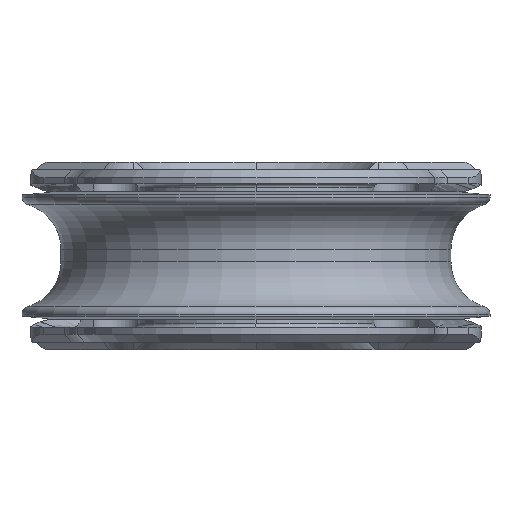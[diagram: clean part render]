
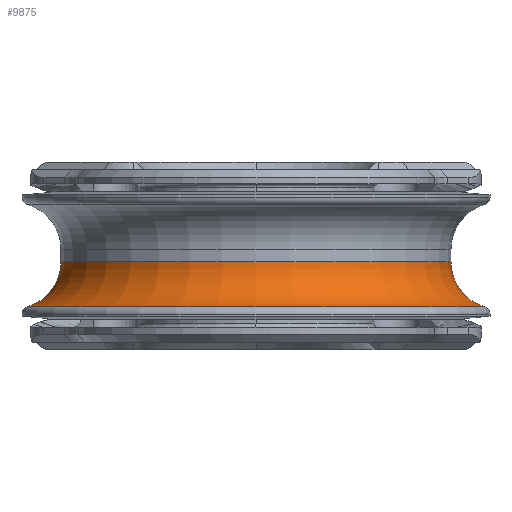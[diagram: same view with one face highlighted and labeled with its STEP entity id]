
A CAD part, front view. The second image highlights one B-rep face of the part: STEP entity #9875.
In plain terms, the highlighted toroidal (fillet/blend) face has major radius 31 mm and minor radius 6 mm.
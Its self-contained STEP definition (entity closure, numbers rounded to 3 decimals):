
#9129=CARTESIAN_POINT('',(-0.8,31.,0.));
#9130=DIRECTION('',(0.,0.,-1.));
#9131=DIRECTION('',(0.,-1.,0.));
#9132=AXIS2_PLACEMENT_3D('',#9129,#9130,#9131);
#9134=CARTESIAN_POINT('',(-0.8,-31.,0.));
#9135=DIRECTION('',(0.,0.,1.));
#9136=DIRECTION('',(0.,1.,0.));
#9137=AXIS2_PLACEMENT_3D('',#9134,#9135,#9136);
#9139=CARTESIAN_POINT('',(-0.8,0.,0.));
#9140=DIRECTION('',(-1.,0.,0.));
#9141=DIRECTION('',(0.,1.,0.));
#9142=AXIS2_PLACEMENT_3D('',#9139,#9140,#9141);
#9164=CARTESIAN_POINT('',(-6.55,0.,0.));
#9165=DIRECTION('',(-1.,0.,0.));
#9166=DIRECTION('',(0.,1.,0.));
#9167=AXIS2_PLACEMENT_3D('',#9164,#9165,#9166);
#9562=CARTESIAN_POINT('',(-0.8,25.,0.));
#9564=VERTEX_POINT('',#9562);
#9565=CARTESIAN_POINT('',(-6.55,29.286,0.));
#9566=VERTEX_POINT('',#9565);
#9578=CARTESIAN_POINT('',(-0.8,-25.,0.));
#9580=VERTEX_POINT('',#9578);
#9581=CARTESIAN_POINT('',(-6.55,-29.286,0.));
#9582=VERTEX_POINT('',#9581);
#9861=CARTESIAN_POINT('',(-0.8,0.,0.));
#9862=DIRECTION('',(1.,0.,0.));
#9863=DIRECTION('',(0.,-1.,0.));
#9864=AXIS2_PLACEMENT_3D('',#9861,#9862,#9863);
#9865=TOROIDAL_SURFACE('',#9864,31.,6.);
#9867=ORIENTED_EDGE('',*,*,#9866,.T.);
#9869=ORIENTED_EDGE('',*,*,#9868,.T.);
#9871=ORIENTED_EDGE('',*,*,#9870,.F.);
#9872=ORIENTED_EDGE('',*,*,#9854,.F.);
#9873=EDGE_LOOP('',(#9867,#9869,#9871,#9872));
#9874=FACE_OUTER_BOUND('',#9873,.F.);
#9875=ADVANCED_FACE('',(#9874),#9865,.F.);
#9133=CIRCLE('',#9132,6.);
#9138=CIRCLE('',#9137,6.);
#9143=CIRCLE('',#9142,25.);
#9168=CIRCLE('',#9167,29.286);
#9854=EDGE_CURVE('',#9564,#9580,#9143,.T.);
#9866=EDGE_CURVE('',#9564,#9566,#9133,.T.);
#9868=EDGE_CURVE('',#9566,#9582,#9168,.T.);
#9870=EDGE_CURVE('',#9580,#9582,#9138,.T.);
